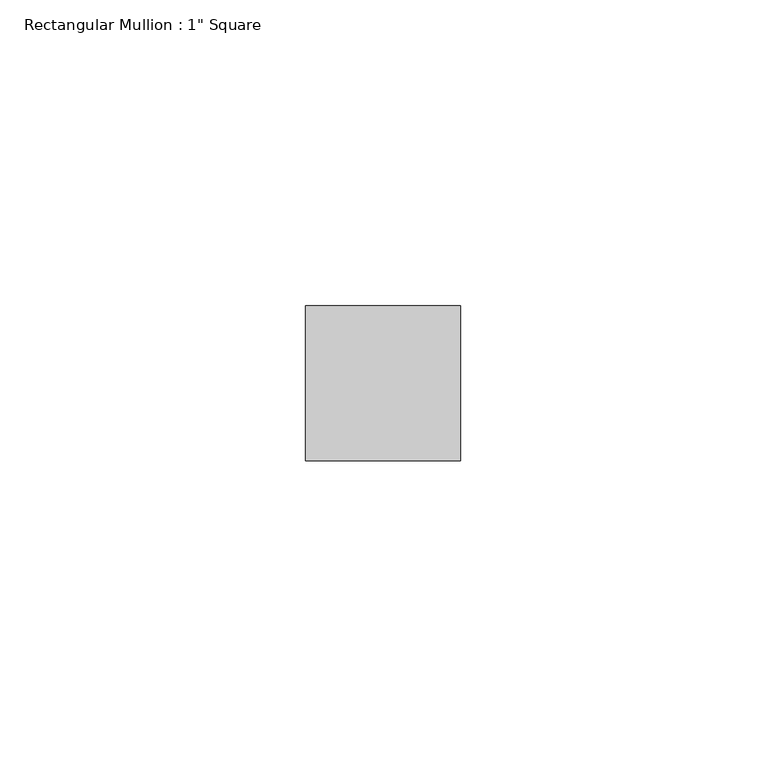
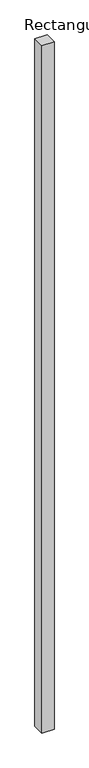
"""IFC4 building model written with IfcOpenShell, lengths in millimetres: member geometry."""

from ifc_helpers import new_model, si_unit, frame, origin, place, context, project, spatial, polyline, outline, extrude, source, transform, mapped, element, save


def member_a1596450(model_context):
    return source(origin(), model_context, "Body", "SweptSolid", [
        extrude(outline(polyline([(12.7, 12.7), (12.7, -12.7), (-12.7, -12.7), (-12.7, 12.7), (12.7, 12.7)])), frame((0.0, 0.0, -1519.0289948), z_axis=(0.0, 0.0, 1.0), x_axis=(1.0, 0.0, 0.0)), (0.0, 0.0, 1.0), 1519.0289948),
    ])


if __name__ == "__main__":
    model = new_model("IFC4")
    model_context = context("Model", 3, world=origin())
    ifc_project = project(units=[si_unit("LENGTHUNIT", "METRE", prefix="MILLI")], contexts=[model_context])
    site = spatial("IfcSite", under=ifc_project)
    building = spatial("IfcBuilding", under=site)
    placement = place(None, origin())
    member_shape = member_a1596450(model_context)
    element("IfcMember", 1, ObjectType="Rectangular Mullion : 1\" Square", at=placement, inside=building, context=model_context, shape_type="MappedRepresentation", body=[
        mapped(member_shape, transform((0.0, 0.0, 0.0), x_axis=(1.0, 0.0, 0.0), y_axis=(0.0, 1.0, 0.0), z_axis=(0.0, 0.0, 1.0))),
    ])
    save(model, "model.ifc")
